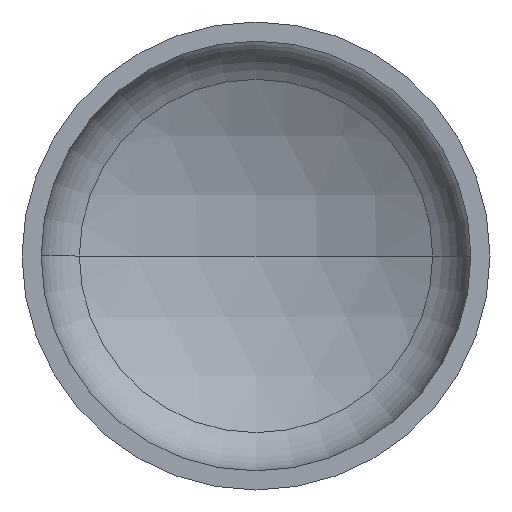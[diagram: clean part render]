
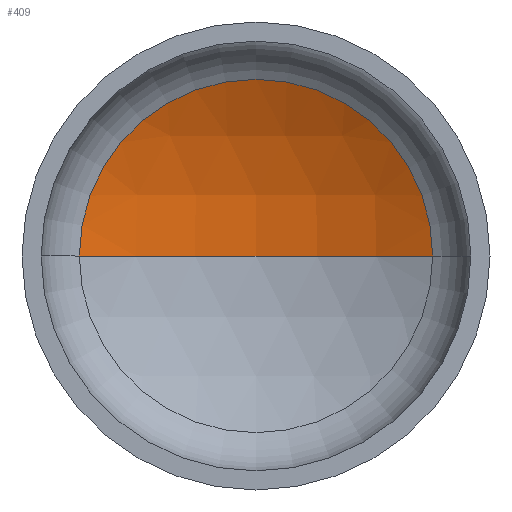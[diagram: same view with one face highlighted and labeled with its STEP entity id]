
A CAD part, front view. The second image highlights one B-rep face of the part: STEP entity #409.
In plain terms, the highlighted spherical face has radius 880 mm.
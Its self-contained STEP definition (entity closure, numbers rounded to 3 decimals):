
#2 = VERTEX_POINT ( 'NONE', #250 ) ;
#9 = EDGE_LOOP ( 'NONE', ( #36, #21, #126 ) ) ;
#14 = AXIS2_PLACEMENT_3D ( 'NONE', #270, #113, #150 ) ;
#21 = ORIENTED_EDGE ( 'NONE', *, *, #169, .T. ) ;
#36 = ORIENTED_EDGE ( 'NONE', *, *, #363, .F. ) ;
#47 = AXIS2_PLACEMENT_3D ( 'NONE', #221, #222, #254 ) ;
#56 = AXIS2_PLACEMENT_3D ( 'NONE', #288, #197, #211 ) ;
#63 = CIRCLE ( 'NONE', #47, 880. ) ;
#69 = VERTEX_POINT ( 'NONE', #241 ) ;
#86 = SPHERICAL_SURFACE ( 'NONE', #331, 880. ) ;
#113 = DIRECTION ( 'NONE',  ( 0., 0., 1. ) ) ;
#114 = VERTEX_POINT ( 'NONE', #302 ) ;
#126 = ORIENTED_EDGE ( 'NONE', *, *, #162, .T. ) ;
#150 = DIRECTION ( 'NONE',  ( 1., 0., 0. ) ) ;
#162 = EDGE_CURVE ( 'NONE', #114, #2, #244, .T. ) ;
#169 = EDGE_CURVE ( 'NONE', #69, #114, #63, .T. ) ;
#197 = DIRECTION ( 'NONE',  ( 0., -1., 0. ) ) ;
#211 = DIRECTION ( 'NONE',  ( 1., 0., 0. ) ) ;
#221 = CARTESIAN_POINT ( 'NONE',  ( 0., -485.999, 0. ) ) ;
#222 = DIRECTION ( 'NONE',  ( 0., 0., -1. ) ) ;
#241 = CARTESIAN_POINT ( 'NONE',  ( 0., 394.001, 0. ) ) ;
#244 = CIRCLE ( 'NONE', #56, 415.211 ) ;
#250 = CARTESIAN_POINT ( 'NONE',  ( -415.211, 289.887, 0. ) ) ;
#254 = DIRECTION ( 'NONE',  ( -1., 0., 0. ) ) ;
#257 = FACE_OUTER_BOUND ( 'NONE', #9, .T. ) ;
#258 = CARTESIAN_POINT ( 'NONE',  ( 0., -485.999, 0. ) ) ;
#270 = CARTESIAN_POINT ( 'NONE',  ( 0., -485.999, 0. ) ) ;
#288 = CARTESIAN_POINT ( 'NONE',  ( 0., 289.887, 0. ) ) ;
#302 = CARTESIAN_POINT ( 'NONE',  ( 415.211, 289.887, 0. ) ) ;
#331 = AXIS2_PLACEMENT_3D ( 'NONE', #258, #351, #372 ) ;
#334 = CIRCLE ( 'NONE', #14, 880. ) ;
#351 = DIRECTION ( 'NONE',  ( 0., 0., -1. ) ) ;
#363 = EDGE_CURVE ( 'NONE', #69, #2, #334, .T. ) ;
#372 = DIRECTION ( 'NONE',  ( -1., 0., 0. ) ) ;
#409 = ADVANCED_FACE ( 'NONE', ( #257 ), #86, .F. ) ;
